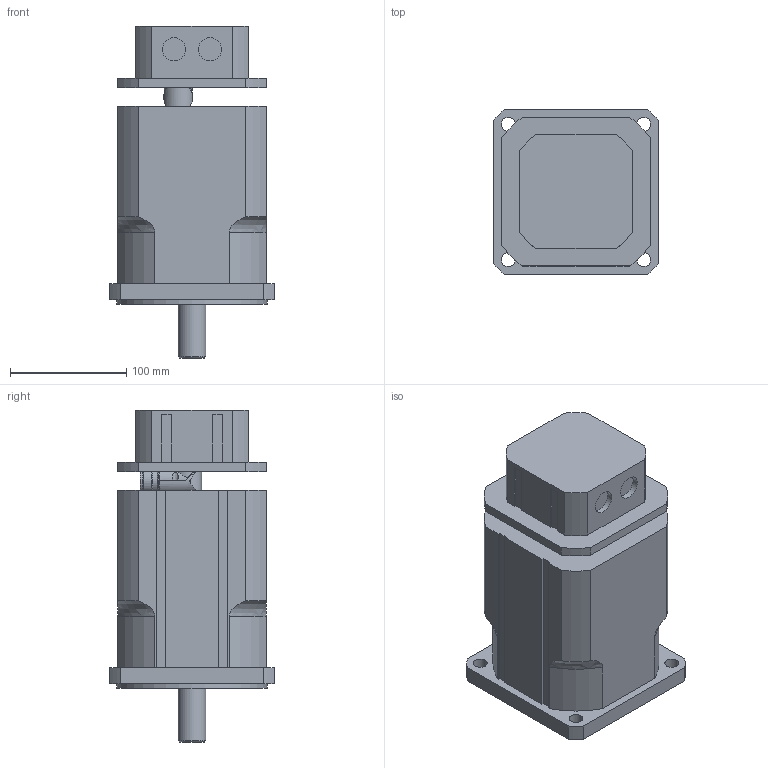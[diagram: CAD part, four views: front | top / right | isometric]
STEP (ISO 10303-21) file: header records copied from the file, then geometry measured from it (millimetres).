
FILE_DESCRIPTION(/* description */ ('Alibre Inc.'),/* implementation_level */ '2;1');
FILE_NAME(/* name */ 'export2',/* time_stamp */ '2013-07-16T08:46:44+02:00',/* author */ (''),/* organization */ (''),/* preprocessor_version */ 'ST-DEVELOPER v12',/* originating_system */ 'Alibre',/* authorisation */ '');
FILE_SCHEMA (('ALIBRE_SCHEMA','CONFIG_CONTROL_DESIGN'));
Length unit declared in the file: millimetre
Products named in the file (5): ID_1
Bounding box: 142 x 142 x 286 mm (x, y, z)
Volume: 3224764.9 mm3; surface area: 208869.6 mm2
Topology: 4 solids, 4 shells, 165 faces, 444 edges, 295 vertices
Faces by surface type: plane 81, cylinder 72, cone 7, torus 4, bspline 1
Full cylindrical faces by diameter (mm): 2.7 x4, 6.647 x1, 12 x4, 20 x5, 22 x2, 24 x1, 130 x1
Entity records: 20024 total; most frequent: CARTESIAN_POINT 4402, ORIENTED_EDGE 2536, DIRECTION 2492, EDGE_CURVE 1268, AXIS2_PLACEMENT_3D 939, VERTEX_POINT 888, VECTOR 884, LINE 846
